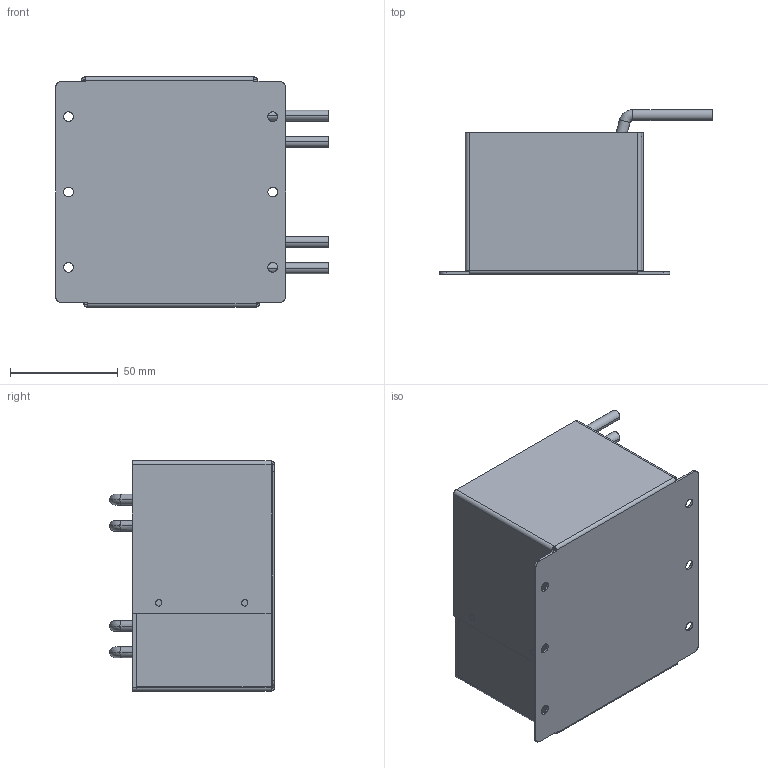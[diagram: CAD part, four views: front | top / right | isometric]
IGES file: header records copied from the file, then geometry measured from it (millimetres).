
Start section: SolidWorks IGES file using analytic representation for surfaces
Global section: file name: 25H\\10.106.230.1\r&d file\05_COMP\02_Mechanical\10_Others\PV_RT 81\网络用3D模型\灌封模型\S-4KW-S-CB-DCL\S-4KW_S_CB-DCL 总装.IGS; native system: SolidWorks 2009; preprocessor: SolidWorks 2009; author: 钱雅婧,,1; organization: 1; date: 120507.170823; units: millimetre
Bounding box: 126.9 x 76.5 x 107 mm (x, y, z)
Surface area: 117652 mm2 (no closed solid volume)
Topology: 0 solids, 0 shells, 128 faces, 976 edges, 976 vertices
Faces by surface type: bspline 72, revolution 56
